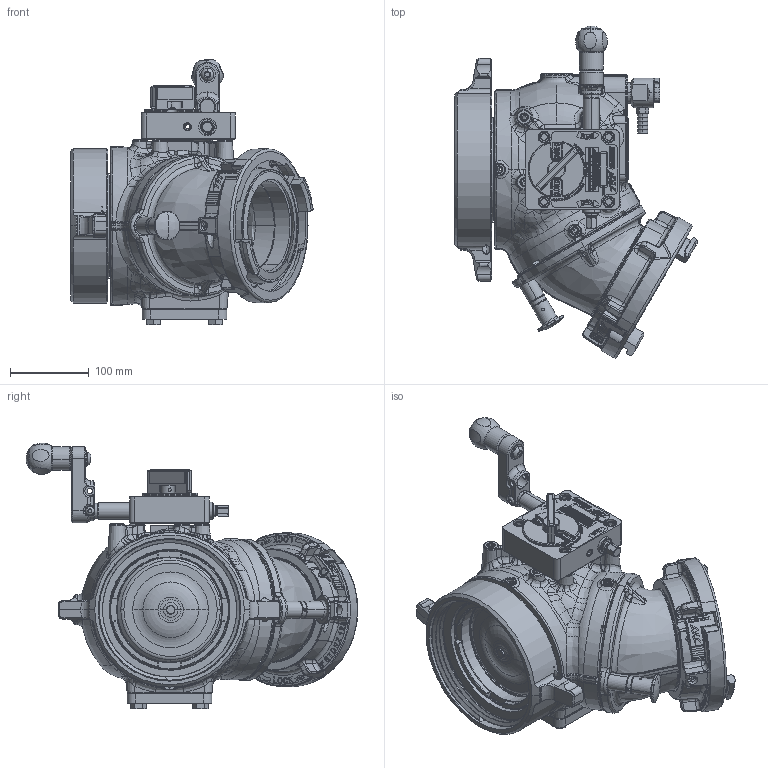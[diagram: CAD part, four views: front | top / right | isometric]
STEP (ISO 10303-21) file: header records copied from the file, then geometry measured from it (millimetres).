
FILE_DESCRIPTION (( 'STEP AP203' ), '1' );
FILE_NAME ('AZD1ST-NX-T_Angled.STEP', '2015-03-24T13:24:47', ( '' ), ( '' ), 'SwSTEP 2.0', 'SolidWorks 2015', '' );
FILE_SCHEMA (( 'CONFIG_CONTROL_DESIGN' ));
Length unit declared in the file: inch
Products named in the file (1): AZD1ST-NX-T_Angled
Bounding box: 309.07 x 422.43 x 337.98 mm (x, y, z)
Surface area: 644590.1 mm2 (no closed solid volume)
Topology: 0 solids, 250 shells, 2686 faces, 15614 edges, 12953 vertices
Faces by surface type: plane 926, bspline 545, cylinder 535, cone 351, torus 292, sphere 37
Entity records: 212398 total; most frequent: CARTESIAN_POINT 104302, ORIENTED_EDGE 20928, DIRECTION 18261, EDGE_CURVE 15599, VERTEX_POINT 12951, VECTOR 8377, LINE 8377, AXIS2_PLACEMENT_3D 4942
